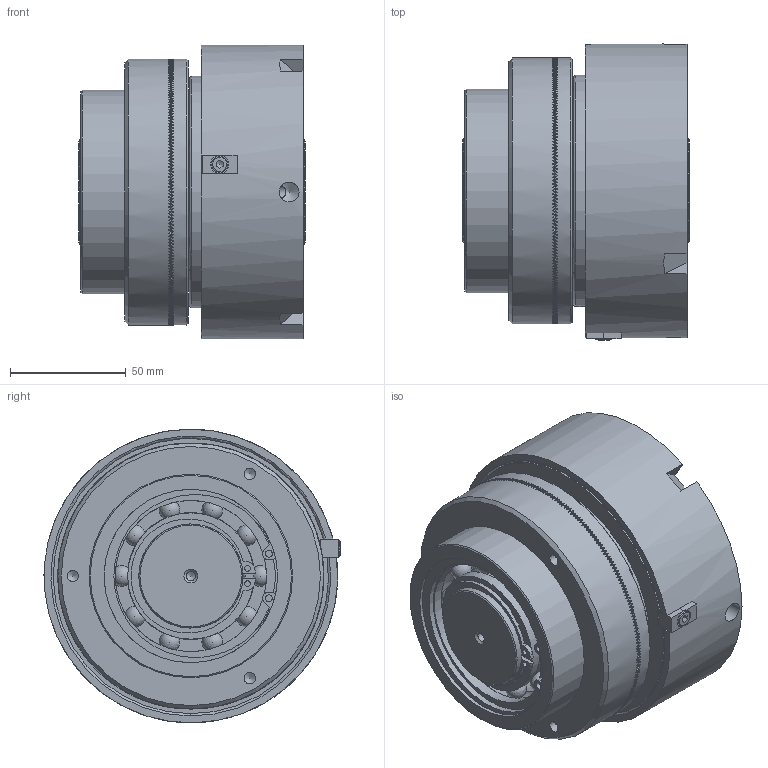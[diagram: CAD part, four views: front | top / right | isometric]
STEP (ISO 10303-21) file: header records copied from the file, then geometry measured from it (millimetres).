
FILE_DESCRIPTION(/* description */ (''),/* implementation_level */ '2;1');
FILE_NAME(/* name */ '\\Srv-tecnico\DATI\UFFICIO TECNICO\ARCHIVIO INVENTOR\DISEGNI\UFFICIO TECNICO\03_Friz_Oleodinamiche e Pneumatiche_Cilindro_Statico\03_20 DPR\03_20_02_01 DPR02\03_20_02_01 DPR-02@STEP.stp',/* time_stamp */ '2016-07-14T13:27:57+02:00',/* author */ ('stefano'),/* organization */ (''),/* preprocessor_version */ 'ST-DEVELOPER v16.1',/* originating_system */ 'Autodesk Inventor 2016',/* authorisation */ '');
FILE_SCHEMA (('AUTOMOTIVE_DESIGN { 1 0 10303 214 3 1 1 }'));
Products named in the file (1): 03_20_02_01 DPR-02_Substitute_1
Bounding box: 98 x 128 x 126.98 mm (x, y, z)
Volume: 766102.1 mm3; surface area: 183606.5 mm2
Topology: 1 solids, 1 shells, 2886 faces, 9383 edges, 6222 vertices
Faces by surface type: plane 2122, cylinder 478, torus 225, sphere 42, cone 19
Full cylindrical faces by diameter (mm): 2.5 x4, 3 x4, 4 x2, 4.917 x3, 5.25 x6, 6 x1, 7 x1, 8.566 x1, 42.5 x2, 45 x4, 54.6 x5, 55 x1, 65 x1, 65.4 x5, 66.5 x1, 67 x2, 74 x1, 75 x4, 76 x1, 76.2 x2, 78 x1, 79 x1, 80 x1, 88 x2, 88.8 x2, 100 x1, 105 x2, 110 x1, 115 x2, 119 x1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
Entity records: 114207 total; most frequent: CARTESIAN_POINT 27023, DIRECTION 18953, ORIENTED_EDGE 18238, EDGE_CURVE 9117, AXIS2_PLACEMENT_3D 8093, VERTEX_POINT 6090, EDGE_LOOP 3063, ELLIPSE 3003
